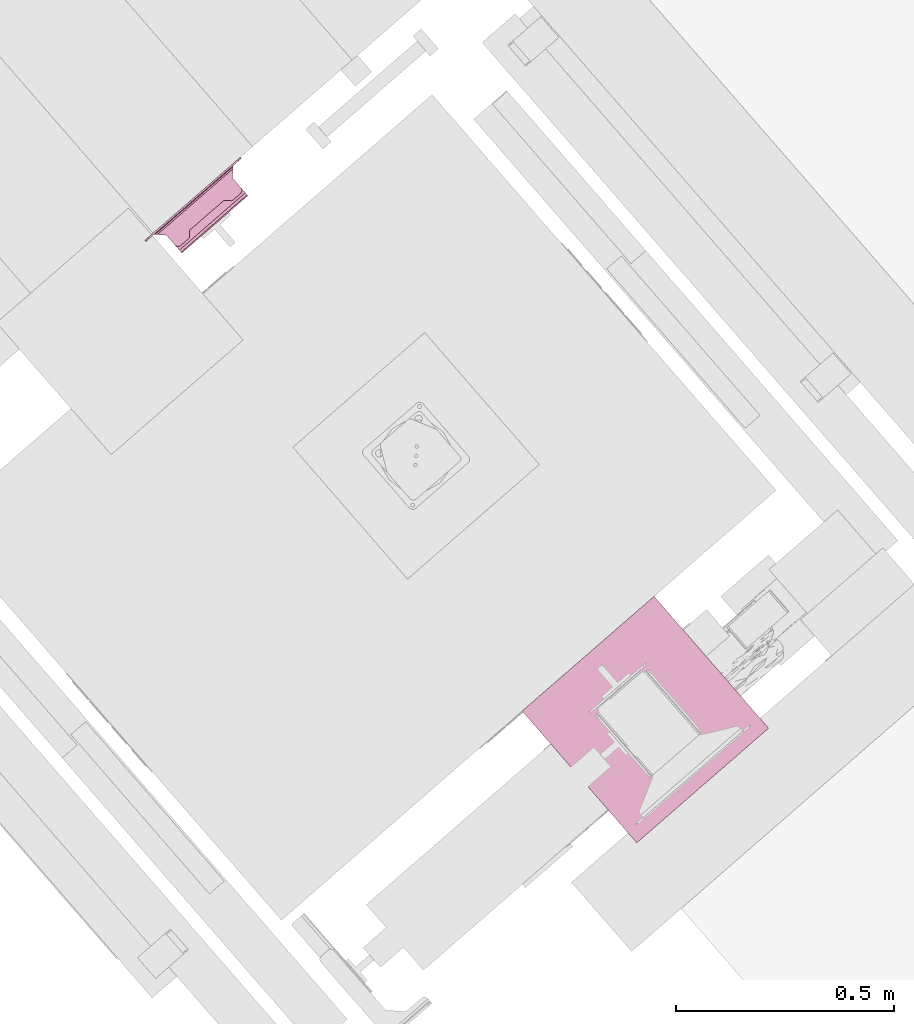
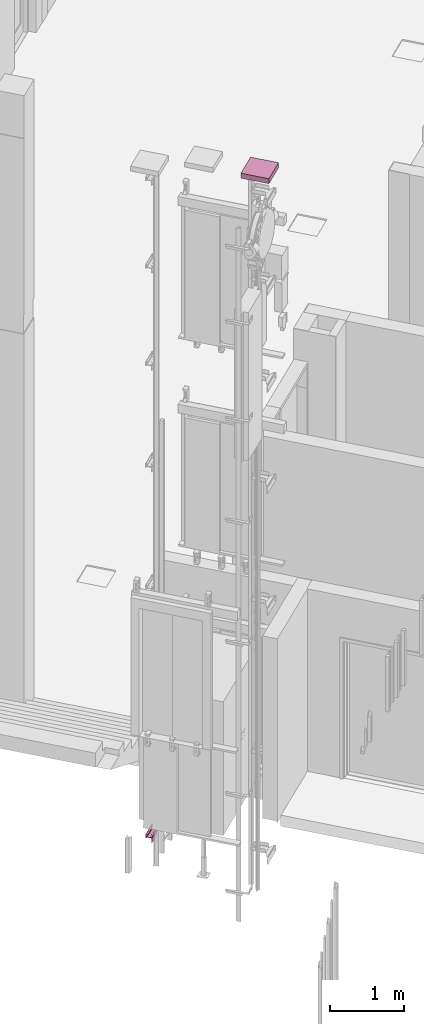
# One storey, part 117 of 124: 2 transport elements.
"""IFC2X3 building model written with IfcOpenShell, lengths in millimetres."""

from ifc_helpers import new_model, entity, si_unit, converted_unit, derived_unit, money_unit, direction, frame, origin_with_axes, place, context, subcontext, project, spatial, faceted_brep, source, transform, mapped, material, material_list, type_object, element, save


model = new_model("IFC2X3")

# Units and contexts
model_context = context("Model", 3, precision=1e-05, world=origin_with_axes(), true_north=direction((0.0, 1.0)))
body_context = subcontext(model_context, "Body", "Model", "MODEL_VIEW")
ifc_project = project(units=[si_unit("LENGTHUNIT", "METRE", prefix="MILLI"), si_unit("AREAUNIT", "SQUARE_METRE"), si_unit("VOLUMEUNIT", "CUBIC_METRE"), converted_unit("PLANEANGLEUNIT", "DEGREE", entity("IfcPlaneAngleMeasure", 0.0174532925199), si_unit("PLANEANGLEUNIT", "RADIAN"), dimensions=[0, 0, 0, 0, 0, 0, 0]), si_unit("SOLIDANGLEUNIT", "STERADIAN"), money_unit("EUR"), converted_unit("TIMEUNIT", "Year", entity("IfcTimeMeasure", 31556926.0), si_unit("TIMEUNIT", "SECOND"), dimensions=[0, 0, 1, 0, 0, 0, 0]), si_unit("MASSUNIT", "GRAM", prefix="KILO"), si_unit("THERMODYNAMICTEMPERATUREUNIT", "DEGREE_CELSIUS"), si_unit("LUMINOUSINTENSITYUNIT", "LUMEN"), si_unit("ENERGYUNIT", "JOULE", prefix="MEGA"), derived_unit("THERMALCONDUCTANCEUNIT", [(si_unit("POWERUNIT", "WATT"), 1), (si_unit("LENGTHUNIT", "METRE"), -1), (si_unit("THERMODYNAMICTEMPERATUREUNIT", "KELVIN"), -1)]), derived_unit("SPECIFICHEATCAPACITYUNIT", [(si_unit("ENERGYUNIT", "JOULE"), 1), (si_unit("MASSUNIT", "GRAM", prefix="KILO"), -1), (si_unit("THERMODYNAMICTEMPERATUREUNIT", "KELVIN"), -1)]), derived_unit("MASSDENSITYUNIT", [(si_unit("MASSUNIT", "GRAM", prefix="KILO"), 1), (si_unit("VOLUMEUNIT", "CUBIC_METRE"), -1)])], contexts=[model_context])

# Site, building, storey
site_placement = place(None, origin_with_axes())
site = spatial("IfcSite", under=ifc_project, at=site_placement, Name="Site", CompositionType="ELEMENT")
building_placement = place(site_placement, origin_with_axes())
building = spatial("IfcBuilding", under=site, at=building_placement, Name="Building", CompositionType="ELEMENT")
storey_placement = place(building_placement, frame((0.0, 0.0, -1615.0), z_axis=(0.0, 0.0, 1.0), x_axis=(1.0, 0.0, 0.0)))
storey = spatial("IfcBuildingStorey", under=building, at=storey_placement, Name="0  korrus", CompositionType="ELEMENT", Elevation=-1615.0)

# Transport elements
ifc_material_1 = material(Name="Generic")
ifc_material_list_1 = material_list([ifc_material_1, ifc_material_1])
transport_element_type_1 = type_object("IfcTransportElementType", Name="KONE_Car_Bracket_Top Most_KM927058G01_L50-80:KONE_Car_Bracket_Top Most_KM927058G01_L50-80", PredefinedType="NOTDEFINED")
shared_shape_1 = source(origin_with_axes(), body_context, "Body", "Brep", [
    faceted_brep([(146.595272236, -5.59527223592, 7.52527223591), (146.595272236, -1.59527223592, 7.52527223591), (152.525272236, -1.59527223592, 1.59527223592), (152.525272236, -5.59527223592, 1.59527223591), (140.665272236, -5.59527223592, 1.59527223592), (140.665272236, -1.59527223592, 1.59527223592), (238.595272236, -1.59527223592, 1.59527223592), (54.5952722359, -1.59527223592, 1.59527223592), (48.9384179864, -1.59527223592, 3.93841798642), (46.5952722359, -1.59527223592, 9.59527223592), (46.5952722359, -1.59527223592, 72.5952722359), (94.2197036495, -1.59527223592, 72.5952722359), (141.844135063, -1.59527223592, 72.5952722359), (194.21970289, -1.59527223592, 72.5952722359), (246.595272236, -1.59527223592, 72.5952722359), (246.595272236, -1.59527223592, 9.59527223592), (244.252126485, -1.59527223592, 3.93841798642), (238.595272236, -5.59527223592, 1.59527223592), (54.5952722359, -5.59527223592, 1.59527223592), (244.252126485, -5.59527223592, 3.93841798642), (246.595272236, -5.59527223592, 9.59527223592), (246.595272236, -5.59527223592, 72.5952722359), (196.595272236, -5.59527223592, 72.5952722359), (171.595272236, -5.59527223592, 72.5952722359), (146.595272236, -5.59527223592, 72.5952722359), (96.5952722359, -5.59527223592, 72.5952722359), (46.5952722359, -5.59527223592, 72.5952722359), (46.5952722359, -5.59527223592, 9.59527223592), (48.9384179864, -5.59527223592, 3.93841798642), (46.5952722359, -7.05973832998, 76.1308061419), (46.5952722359, -10.5952722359, 77.5952722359), (46.5952722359, -43.5952722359, 77.5952722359), (46.5952722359, -43.5952722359, 81.5952722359), (46.5952722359, -10.5952722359, 81.5952722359), (46.5952722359, -4.23131120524, 78.9592332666), (122.783062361, -4.33272177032, 79.0590529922), (196.258388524, -4.23131116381, 78.9592332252), (246.595272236, -4.23131120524, 78.9592332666), (246.595272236, -10.5952722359, 81.5952722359), (246.595272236, -43.5952722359, 81.5952722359), (246.595272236, -43.5952722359, 77.5952722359), (246.595272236, -10.5952722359, 77.5952722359), (246.595272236, -7.05973832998, 76.1308061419), (196.595274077, -7.16817136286, 76.2360111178), (168.268825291, -7.34623169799, 76.3957637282), (108.562980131, -7.16462427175, 76.2326689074), (77.6407986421, -6.76068619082, 75.804002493), (85.6337155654, -10.5952722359, 77.5952722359), (124.672159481, -10.5952722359, 77.5952722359), (155.152937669, -10.5952722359, 77.5952722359), (185.633715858, -10.5952722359, 77.5952722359), (207.556828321, -10.5952722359, 77.5952722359), (244.252126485, -49.2521264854, 77.5952722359), (238.595272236, -51.5952722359, 77.5952722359), (152.735272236, -51.5952722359, 77.5952722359), (146.735272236, -45.5952722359, 77.5952722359), (140.735272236, -51.5952722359, 77.5952722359), (54.5952722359, -51.5952722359, 77.5952722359), (48.9384179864, -49.2521264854, 77.5952722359), (48.9384179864, -49.2521264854, 81.5952722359), (194.219703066, -10.5952722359, 81.5952722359), (146.595272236, -10.5952722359, 81.5952722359), (98.9708407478, -10.5952722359, 81.5952722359), (54.5952722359, -51.5952722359, 81.5952722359), (140.735272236, -51.5952722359, 81.5952722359), (146.735272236, -45.5952722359, 81.5952722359), (152.735272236, -51.5952722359, 81.5952722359), (238.595272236, -51.5952722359, 81.5952722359), (244.252126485, -49.2521264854, 81.5952722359), (139.912552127, -7.23042311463, 76.2936219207)], [[[0, 1, 2, 3]], [[4, 5, 1, 0]], [[6, 2, 1, 5, 7, 8, 9, 10, 11, 12, 13, 14, 15, 16]], [[3, 2, 6, 17]], [[18, 4, 0, 3, 17, 19, 20, 21, 22, 23, 24, 25, 26, 27, 28]], [[18, 7, 5, 4]], [[7, 18, 28, 8]], [[28, 27, 9, 8]], [[26, 29, 30, 31, 32, 33, 34, 10, 9, 27]], [[10, 34, 11]], [[35, 12, 11]], [[14, 13, 12, 36]], [[15, 14, 37, 38, 39, 40, 41, 42, 21, 20]], [[20, 19, 16, 15]], [[16, 19, 17, 6]], [[22, 21, 42]], [[23, 22, 43]], [[23, 44, 24]], [[25, 24, 45]], [[25, 46, 26]], [[46, 29, 26]], [[30, 29, 46]], [[31, 30, 47, 48, 49, 50, 51, 41, 40, 52, 53, 54, 55, 56, 57, 58]], [[31, 58, 59, 32]], [[39, 38, 60, 61, 62, 33, 32, 59, 63, 64, 65, 66, 67, 68]], [[34, 33, 62]], [[35, 11, 34]], [[12, 35, 36]], [[36, 37, 14]], [[38, 37, 36]], [[68, 52, 40, 39]], [[42, 41, 51]], [[22, 42, 43]], [[43, 44, 23]], [[69, 24, 44]], [[24, 69, 45]], [[25, 45, 46]], [[46, 47, 30]], [[45, 48, 47]], [[49, 48, 69]], [[49, 44, 50]], [[43, 51, 50]], [[53, 52, 68, 67]], [[66, 54, 53, 67]], [[65, 55, 54, 66]], [[55, 65, 64, 56]], [[63, 57, 56, 64]], [[59, 58, 57, 63]], [[60, 38, 36, 61]], [[35, 62, 61]], [[62, 35, 34]], [[61, 36, 35]], [[51, 43, 42]], [[50, 44, 43]], [[49, 69, 44]], [[48, 45, 69]], [[47, 46, 45]]]),
    faceted_brep([(193.031915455, -77.1650327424, 84.4439921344), (166.844136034, -79.5952722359, 90.5952722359), (115.281700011, -77.3075838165, 84.5998678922), (219.21970396, -79.5952722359, 90.5952722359), (120.407488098, -79.5952722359, 90.5952722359), (73.9708401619, -79.5952722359, 90.5952722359), (146.595272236, -70.5952722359, 81.5952722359), (266.596625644, -78.0785870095, 85.5952722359), (239.595272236, -79.5952722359, 113.598825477), (26.5913722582, -76.9592332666, 84.2313112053), (83.9681334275, -70.5952722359, 81.5952722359), (209.222411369, -70.5952722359, 81.5952722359), (266.596625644, -76.9592332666, 84.2313112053), (268.983493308, -79.2077583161, 87.9827861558), (271.595272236, -79.5952722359, 90.5952722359), (21.5952722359, -79.5952722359, 90.5952722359), (26.5913722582, -78.0785870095, 85.5952722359), (26.5913722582, -75.5952722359, 83.1119574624), (261.597979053, -70.5952722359, 81.5952722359), (31.5925654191, -70.5952722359, 81.5952722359), (46.5952722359, -55.5885033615, 81.5952722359), (46.5952722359, -24.5952722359, 81.5952722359), (48.9384179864, -18.9384179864, 81.5952722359), (54.5952722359, -16.5952722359, 81.5952722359), (81.588825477, -16.5952722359, 81.5952722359), (94.588825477, -29.5952722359, 81.5952722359), (198.601718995, -29.5952722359, 81.5952722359), (211.601718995, -16.5952722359, 81.5952722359), (238.595272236, -16.5952722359, 81.5952722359), (244.252126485, -18.9384179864, 81.5952722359), (246.595272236, -24.5952722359, 81.5952722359), (246.595272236, -55.5885033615, 81.5952722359), (266.596625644, -75.5952722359, 83.1119574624), (266.596625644, -75.5952722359, 85.5952722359), (271.595272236, -75.5952722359, 90.5952722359), (271.595272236, -79.5952722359, 113.598825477), (53.5952722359, -79.5952722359, 113.598825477), (24.2057778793, -79.2077583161, 87.9827861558), (26.5888256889, -75.5952722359, 85.5952722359), (264.209757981, -73.2077583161, 81.9827861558), (28.9795132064, -73.2077583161, 81.9827861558), (31.5925654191, -70.5952722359, 85.5952722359), (46.5952722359, -55.5885033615, 85.5952722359), (46.5952722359, -24.5952722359, 85.5952722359), (48.9384179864, -18.9384179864, 85.5952722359), (54.5952722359, -16.5952722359, 85.5952722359), (81.588825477, -16.5952722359, 85.5952722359), (94.588825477, -29.5952722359, 85.5952722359), (198.601718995, -29.5952722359, 85.5952722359), (211.601718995, -16.5952722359, 85.5952722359), (238.595272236, -16.5952722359, 85.5952722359), (244.252126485, -18.9384179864, 85.5952722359), (246.595272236, -24.5952722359, 85.5952722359), (246.595272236, -55.5885033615, 85.5952722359), (261.597979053, -70.5952722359, 85.5952722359), (265.132555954, -74.1308061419, 87.05973833), (266.596625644, -75.5952722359, 90.5952722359), (283.595272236, -75.5952722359, 90.5952722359), (283.595272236, -79.5952722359, 90.5952722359), (271.595272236, -75.5952722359, 113.598825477), (239.595272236, -75.5952722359, 113.598825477), (21.5952722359, -79.5952722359, 113.598825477), (233.533094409, -79.5952722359, 117.098825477), (21.5952722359, -75.5952722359, 90.5952722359), (68.5183858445, -70.5952722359, 85.5952722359), (105.44420598, -70.5952722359, 85.5952722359), (144.482649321, -70.5952722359, 85.5952722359), (183.521092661, -70.5952722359, 85.5952722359), (222.559536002, -70.5952722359, 85.5952722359), (227.558182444, -75.5952722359, 90.5952722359), (289.252126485, -75.5952722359, 92.9384179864), (289.252126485, -79.5952722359, 92.9384179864), (291.595272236, -79.5952722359, 98.5952722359), (277.657450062, -79.5952722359, 117.098825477), (277.657450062, -75.5952722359, 117.098825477), (233.533094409, -75.5952722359, 117.098825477), (9.59527223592, -79.5952722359, 90.595272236), (53.5952722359, -75.5952722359, 113.598825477), (21.5952722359, -75.5952722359, 113.598825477), (59.6574500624, -79.5952722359, 117.098825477), (9.59527223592, -75.5952722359, 90.595272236), (28.0579885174, -74.1308061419, 87.05973833), (76.1134774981, -74.1768855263, 87.1064262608), (130.371296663, -74.1224900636, 87.0514417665), (161.595438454, -74.0699729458, 86.9999342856), (217.077061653, -74.2010396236, 87.1313955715), (59.6574500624, -75.5952722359, 117.098825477), (291.595272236, -75.5952722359, 98.5952722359), (277.657450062, -79.5952722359, 124.098825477), (277.657450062, -75.5952722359, 124.098825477), (233.533094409, -79.5952722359, 124.098825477), (233.533094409, -75.5952722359, 124.098825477), (1.59527223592, -79.5952722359, 98.595272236), (26.5939188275, -75.5952722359, 90.5952722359), (15.5330944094, -79.5952722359, 117.098825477), (15.5330944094, -75.5952722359, 117.098825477), (3.93841798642, -75.5952722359, 92.9384179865), (3.93841798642, -79.5952722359, 92.9384179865), (103.281001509, -74.5050304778, 87.478576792), (189.264421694, -74.4223954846, 87.3776445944), (206.595949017, -75.5952722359, 90.5952722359), (291.595272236, -75.5952722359, 142.595272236), (291.595272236, -79.5952722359, 142.595272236), (271.595272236, -79.5952722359, 127.598825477), (271.595272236, -75.5952722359, 127.598825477), (239.595272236, -79.5952722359, 127.598825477), (239.595272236, -75.5952722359, 127.598825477), (59.6574500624, -79.5952722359, 124.098825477), (59.6574500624, -75.5952722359, 124.098825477), (1.59527223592, -75.5952722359, 98.595272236), (15.5330944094, -79.5952722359, 124.098825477), (15.5330944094, -75.5952722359, 124.098825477), (65.632362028, -75.5952722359, 90.5952722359), (86.5945954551, -75.5952722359, 90.5952722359), (146.595272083, -75.5952722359, 90.5952722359), (116.594933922, -75.5952722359, 90.5952722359), (176.59561055, -75.5952722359, 90.5952722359), (289.252126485, -75.5952722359, 148.252126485), (289.252126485, -79.5952722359, 148.252126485), (53.5952722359, -79.5952722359, 127.598825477), (1.59527223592, -79.5952722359, 142.595272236), (53.5952722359, -75.5952722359, 127.598825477), (1.59527223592, -75.5952722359, 142.595272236), (21.5952722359, -79.5952722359, 127.598825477), (21.5952722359, -75.5952722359, 127.598825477), (283.595272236, -75.5952722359, 150.595272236), (283.595272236, -79.5952722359, 150.595272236), (9.59527223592, -79.5952722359, 150.595272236), (3.93841798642, -75.5952722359, 148.252126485), (3.93841798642, -79.5952722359, 148.252126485), (9.59527223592, -75.5952722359, 150.595272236)], [[[0, 1, 2]], [[0, 3, 1]], [[4, 5, 2, 1]], [[0, 2, 6]], [[3, 0, 7]], [[8, 1, 3]], [[8, 5, 4]], [[2, 5, 9]], [[8, 4, 1]], [[10, 6, 2]], [[0, 6, 11]], [[0, 12, 7]], [[7, 13, 3]], [[8, 3, 14]], [[8, 15, 5]], [[5, 16, 9]], [[17, 2, 9]], [[18, 11, 6, 10, 19, 20, 21, 22, 23, 24, 25, 26, 27, 28, 29, 30, 31]], [[2, 17, 10]], [[0, 11, 32]], [[32, 12, 0]], [[33, 7, 12, 32]], [[34, 14, 13, 7, 33]], [[13, 14, 3]], [[14, 35, 8]], [[36, 15, 8]], [[5, 15, 37]], [[16, 5, 37]], [[38, 9, 16]], [[9, 38, 17]], [[11, 18, 39]], [[40, 19, 10]], [[20, 19, 41, 42]], [[20, 42, 43, 21]], [[21, 43, 44, 22]], [[44, 45, 23, 22]], [[23, 45, 46, 24]], [[46, 47, 25, 24]], [[25, 47, 48, 26]], [[48, 49, 27, 26]], [[27, 49, 50, 28]], [[28, 50, 51, 29]], [[51, 52, 30, 29]], [[30, 52, 53, 31]], [[33, 32, 39, 18, 31, 53, 54, 55, 56]], [[40, 10, 17]], [[32, 11, 39]], [[57, 58, 14, 34]], [[34, 33, 56]], [[35, 14, 58]], [[8, 35, 59, 60]], [[61, 15, 36]], [[8, 62, 36]], [[15, 63, 37]], [[16, 37, 38]], [[17, 38, 40]], [[19, 40, 41]], [[53, 52, 51, 50, 49, 48, 47, 46, 45, 44, 43, 42, 41, 64, 65, 66, 67, 68, 54]], [[68, 55, 54]], [[69, 56, 55]], [[58, 57, 70, 71]], [[57, 34, 59]], [[56, 59, 34]], [[58, 72, 35]], [[35, 73, 74, 59]], [[60, 59, 56]], [[62, 8, 60, 75]], [[15, 61, 76]], [[61, 36, 77, 78]], [[36, 62, 79]], [[15, 76, 80, 63]], [[37, 63, 38]], [[81, 40, 38]], [[41, 40, 81]], [[41, 81, 64]], [[64, 82, 65]], [[83, 66, 65]], [[84, 67, 66]], [[85, 68, 67]], [[68, 85, 55]], [[86, 56, 69]], [[85, 69, 55]], [[57, 87, 70]], [[70, 87, 72, 71]], [[58, 71, 72]], [[87, 57, 59]], [[72, 73, 35]], [[73, 88, 89, 74]], [[59, 74, 87]], [[56, 75, 60]], [[90, 62, 75, 91]], [[92, 76, 61]], [[36, 79, 86, 77]], [[78, 77, 93]], [[94, 61, 78, 95]], [[90, 79, 62]], [[96, 80, 76, 97]], [[78, 63, 80]], [[63, 93, 38]], [[38, 93, 81]], [[81, 82, 64]], [[82, 98, 65]], [[66, 83, 84]], [[65, 98, 83]], [[84, 99, 67]], [[85, 67, 99]], [[56, 86, 75]], [[86, 69, 100]], [[100, 69, 85]], [[101, 102, 72, 87]], [[73, 72, 102]], [[102, 88, 73]], [[88, 103, 104, 89]], [[89, 101, 74]], [[87, 74, 101]], [[91, 75, 86]], [[105, 90, 91, 106]], [[97, 76, 92]], [[92, 61, 94]], [[79, 107, 108, 86]], [[77, 86, 93]], [[93, 63, 78]], [[109, 95, 78]], [[110, 94, 95, 111]], [[107, 79, 90]], [[80, 96, 109]], [[92, 109, 96, 97]], [[80, 109, 78]], [[81, 93, 112]], [[112, 82, 81]], [[113, 98, 82]], [[84, 83, 114]], [[115, 83, 98]], [[99, 84, 116]], [[85, 99, 100]], [[86, 100, 116]], [[102, 101, 117, 118]], [[103, 88, 102]], [[104, 103, 105, 106]], [[89, 104, 101]], [[86, 108, 91]], [[105, 119, 90]], [[106, 91, 108]], [[92, 94, 120]], [[107, 119, 121, 108]], [[86, 112, 93]], [[95, 109, 122]], [[110, 120, 94]], [[122, 111, 95]], [[123, 110, 111, 124]], [[119, 107, 90]], [[92, 120, 122, 109]], [[113, 82, 112]], [[115, 98, 113]], [[114, 83, 115]], [[114, 116, 84]], [[100, 99, 116]], [[86, 116, 114]], [[125, 117, 101]], [[117, 125, 126, 118]], [[102, 118, 126]], [[102, 126, 103]], [[105, 103, 126]], [[104, 106, 125]], [[101, 104, 125]], [[119, 105, 127]], [[121, 106, 108]], [[119, 123, 124, 121]], [[86, 113, 112]], [[110, 123, 120]], [[124, 111, 122]], [[128, 122, 120, 129]], [[86, 115, 113]], [[86, 114, 115]], [[130, 127, 126, 125]], [[126, 127, 105]], [[106, 121, 125]], [[123, 119, 127]], [[121, 124, 130]], [[120, 123, 127]], [[122, 130, 124]], [[128, 130, 122]], [[127, 129, 120]], [[127, 130, 128, 129]], [[130, 125, 121]]]),
])
transport_element_1_placement = place(storey_placement, frame((146762.129236, 79088.9929383, -970.192538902), z_axis=(0.0, 0.0, 1.0), x_axis=(-0.754709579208, -0.656059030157, 0.0)))
element("IfcTransportElement", 1, at=transport_element_1_placement, inside=storey, type_object=transport_element_type_1, material=ifc_material_list_1, Name="KONE_Car_Bracket_Top Most_KM927058G01_L50-80:KONE_Car_Bracket_Top Most_KM927058G01_L50-80", ObjectType="KONE_Car_Bracket_Top Most_KM927058G01_L50-80", CapacityByNumber=0.0, CapacityByWeight=0.0, OperationType="ELEVATOR", context=body_context, shape_type="MappedRepresentation", body=[
    mapped(shared_shape_1, transform((0.0, 0.0, 0.0))),
])
ifc_material_2 = material(Name="IFC Building Material")
ifc_material_list_2 = material_list([ifc_material_2, ifc_material_2])
transport_element_type_2 = type_object("IfcTransportElementType", Name="KONE_Hook_Embedded:KONE_Hook_Embedded", PredefinedType="NOTDEFINED")
shared_shape_2 = source(origin_with_axes(), body_context, "Body", "Brep", [
    faceted_brep([(166.5, 208.5, 81.5952722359), (164.300038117, 208.210369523, 81.5952722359), (162.25, 207.361215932, 81.5952722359), (160.48959236, 206.01040764, 81.5952722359), (159.138784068, 204.25, 81.5952722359), (158.289630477, 202.199961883, 81.5952722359), (158.0, 200.0, 81.5952722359), (158.289630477, 197.800038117, 81.5952722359), (159.138784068, 195.75, 81.5952722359), (160.48959236, 193.98959236, 81.5952722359), (162.25, 192.638784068, 81.5952722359), (164.300038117, 191.789630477, 81.5952722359), (166.5, 191.5, 81.5952722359), (168.699961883, 191.789630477, 81.5952722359), (170.75, 192.638784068, 81.5952722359), (172.51040764, 193.98959236, 81.5952722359), (173.861215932, 195.75, 81.5952722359), (174.710369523, 197.800038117, 81.5952722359), (175.0, 200.0, 81.5952722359), (174.710369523, 202.199961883, 81.5952722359), (173.861215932, 204.25, 81.5952722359), (172.51040764, 206.01040764, 81.5952722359), (170.75, 207.361215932, 81.5952722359), (168.699961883, 208.210369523, 81.5952722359), (166.5, 208.5, 43.5952722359), (164.300038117, 208.210369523, 43.5952722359), (162.25, 207.361215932, 43.5952722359), (160.48959236, 206.01040764, 43.5952722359), (159.138784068, 204.25, 43.5952722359), (158.289630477, 202.199961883, 43.5952722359), (158.0, 200.0, 43.5952722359), (158.289630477, 197.800038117, 43.5952722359), (159.138784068, 195.75, 43.5952722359), (160.48959236, 193.98959236, 43.5952722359), (162.25, 192.638784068, 43.5952722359), (164.300038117, 191.789630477, 43.5952722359), (166.5, 191.5, 43.5952722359), (168.699961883, 191.789630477, 43.5952722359), (170.75, 192.638784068, 43.5952722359), (172.51040764, 193.98959236, 43.5952722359), (173.861215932, 195.75, 43.5952722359), (174.710369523, 197.800038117, 43.5952722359), (175.0, 200.0, 43.5952722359), (174.710369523, 202.199961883, 43.5952722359), (173.861215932, 204.25, 43.5952722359), (172.51040764, 206.01040764, 43.5952722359), (170.75, 207.361215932, 43.5952722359), (168.699961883, 208.210369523, 43.5952722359), (163.610679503, 207.344898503, 33.446130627), (161.809659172, 200.0, 29.3774306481), (159.904829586, 200.0, 36.486351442), (158.952414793, 200.0, 40.040811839), (163.635953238, 192.622830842, 33.5641172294), (166.96126726, 191.863528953, 29.3998944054), (172.251319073, 192.654841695, 34.4326313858), (172.228591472, 207.377425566, 34.3237089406), (166.908799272, 208.075472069, 29.035421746), (177.38728757, 200.0, 36.2479565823), (163.626933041, 200.0, 22.5952722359), (173.267388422, 191.59542235, 25.59149626), (173.241658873, 208.482247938, 24.3662461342), (169.138053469, 193.461914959, 19.8630559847), (178.559443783, 193.152038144, 24.8726904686), (177.049050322, 208.499995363, 19.204512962), (168.696753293, 206.451483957, 20.2761285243), (171.313466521, 200.0, 14.9087387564), (173.726458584, 193.859375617, 14.2648564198), (179.774575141, 200.0, 28.9006409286), (174.041753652, 205.984610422, 13.774604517), (186.024575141, 200.0, 24.3597501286), (181.261740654, 191.502762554, 16.0878882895), (179.228250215, 206.172954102, 10.1822071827), (181.944750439, 208.495441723, 15.7082314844), (179.0, 200.0, 7.22220527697), (181.938024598, 194.347747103, 8.07543109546), (189.167875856, 193.421919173, 17.6487989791), (188.508909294, 207.995822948, 15.2174447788), (186.514291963, 191.570649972, 11.7384689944), (186.221675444, 206.88983966, 7.66880063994), (189.5, 200.0, 4.40873875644), (192.274575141, 200.0, 19.8188593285), (192.619579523, 191.600336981, 9.58467364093), (199.112736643, 192.655929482, 14.3883053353), (193.734941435, 206.225442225, 16.6001271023), (194.491029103, 208.478669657, 9.94138885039), (200.0, 200.0, 19.8188593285), (199.149382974, 192.088260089, 6.99800772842), (200.0, 200.0, 1.59527223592), (206.265057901, 193.77455793, 16.6001271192), (200.8872622, 207.344070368, 14.3883055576), (200.850616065, 207.911740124, 6.99800824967), (205.508970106, 191.521330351, 9.94138860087), (207.725424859, 200.0, 19.8188593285), (210.5, 200.0, 4.40873875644), (211.491090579, 192.004177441, 15.2174458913), (210.507529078, 206.567275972, 17.5298650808), (207.380419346, 208.399663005, 9.58467330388), (213.778324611, 193.110160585, 7.668800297), (213.975424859, 200.0, 24.3597501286), (213.515302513, 208.18197238, 10.4408604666), (218.055250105, 191.504558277, 15.7082318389), (218.172480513, 208.489419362, 15.9586287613), (221.0, 200.0, 7.22220527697), (218.370700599, 205.722806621, 8.30571902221), (220.771750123, 193.827045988, 10.1822072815), (220.225424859, 200.0, 28.9006409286), (222.950950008, 191.500004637, 19.2045132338), (222.494752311, 208.367468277, 20.8291456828), (223.93391669, 206.820336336, 13.3458698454), (225.958246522, 194.01538959, 13.7746046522), (222.61271243, 200.0, 36.2479565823), (224.84326674, 200.0, 11.0654720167), (228.686533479, 200.0, 14.9087387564), (226.758341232, 191.517752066, 24.3662463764), (226.758341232, 208.482247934, 24.3662463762), (231.303246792, 206.451483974, 20.2761286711), (236.373066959, 200.0, 22.5952722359), (231.303246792, 193.548516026, 20.2761286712), (227.771408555, 192.622574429, 34.3237089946), (227.771408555, 207.377425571, 34.3237089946), (233.091200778, 208.075472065, 29.0354218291), (233.091200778, 191.924527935, 29.0354218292), (225.0, 200.0, 43.5952722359), (236.389320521, 207.344898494, 33.4461306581), (225.289630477, 197.800038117, 43.5952722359), (227.48959236, 193.98959236, 43.5952722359), (225.289630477, 202.199961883, 43.5952722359), (227.48959236, 206.01040764, 43.5952722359), (236.389320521, 192.655101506, 33.4461306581), (229.25, 207.361215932, 43.5952722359), (238.190340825, 200.0, 29.3774306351), (226.138784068, 195.75, 43.5952722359), (225.289630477, 197.800038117, 81.5952722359), (225.0, 200.0, 81.5952722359), (229.25, 192.638784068, 43.5952722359), (226.138784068, 204.25, 43.5952722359), (225.289630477, 202.199961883, 81.5952722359), (231.300038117, 208.210369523, 43.5952722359), (235.699961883, 208.210369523, 43.5952722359), (226.138784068, 195.75, 81.5952722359), (231.300038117, 208.210369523, 81.5952722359), (229.25, 207.361215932, 81.5952722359), (227.48959236, 206.01040764, 81.5952722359), (226.138784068, 204.25, 81.5952722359), (227.48959236, 193.98959236, 81.5952722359), (229.25, 192.638784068, 81.5952722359), (231.300038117, 191.789630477, 81.5952722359), (233.5, 191.5, 81.5952722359), (235.699961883, 191.789630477, 81.5952722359), (237.75, 192.638784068, 81.5952722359), (239.51040764, 193.98959236, 81.5952722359), (240.861215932, 195.75, 81.5952722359), (241.710369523, 197.800038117, 81.5952722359), (242.0, 200.0, 81.5952722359), (241.710369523, 202.199961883, 81.5952722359), (240.861215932, 204.25, 81.5952722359), (239.51040764, 206.01040764, 81.5952722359), (237.75, 207.361215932, 81.5952722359), (235.699961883, 208.210369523, 81.5952722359), (233.5, 208.5, 81.5952722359), (235.699961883, 191.789630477, 43.5952722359), (231.300038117, 191.789630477, 43.5952722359), (233.5, 208.5, 43.5952722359), (237.75, 207.361215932, 43.5952722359), (233.5, 191.5, 43.5952722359), (237.75, 192.638784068, 43.5952722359), (239.51040764, 193.98959236, 43.5952722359), (240.861215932, 195.75, 43.5952722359), (241.710369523, 197.800038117, 43.5952722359), (242.0, 200.0, 43.5952722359), (241.710369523, 202.199961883, 43.5952722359), (240.861215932, 204.25, 43.5952722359), (239.51040764, 206.01040764, 43.5952722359), (240.095170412, 200.0, 36.4863514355), (241.047585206, 200.0, 40.0408118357)], [[[0, 1, 2, 3, 4, 5, 6, 7, 8, 9, 10, 11, 12, 13, 14, 15, 16, 17, 18, 19, 20, 21, 22, 23]], [[1, 0, 24, 25]], [[26, 2, 1, 25]], [[27, 3, 2, 26]], [[27, 28, 4, 3]], [[4, 28, 29, 5]], [[5, 29, 30, 6]], [[31, 7, 6, 30]], [[32, 8, 7, 31]], [[32, 33, 9, 8]], [[9, 33, 34, 10]], [[10, 34, 35, 11]], [[11, 35, 36, 12]], [[13, 12, 36, 37]], [[38, 14, 13, 37]], [[39, 15, 14, 38]], [[39, 40, 16, 15]], [[16, 40, 41, 17]], [[17, 41, 42, 18]], [[43, 19, 18, 42]], [[44, 20, 19, 43]], [[44, 45, 21, 20]], [[21, 45, 46, 22]], [[22, 46, 47, 23]], [[23, 47, 24, 0]], [[25, 24, 48]], [[49, 26, 25]], [[50, 27, 26]], [[50, 28, 27]], [[28, 51, 29]], [[51, 30, 29]], [[31, 30, 51]], [[51, 32, 31]], [[32, 50, 33]], [[33, 50, 34]], [[34, 49, 35]], [[52, 36, 35]], [[37, 36, 52]], [[52, 38, 37]], [[38, 53, 39]], [[40, 39, 54]], [[40, 54, 41]], [[42, 41, 54]], [[42, 55, 43]], [[55, 44, 43]], [[44, 55, 45]], [[56, 46, 45]], [[48, 47, 46]], [[48, 24, 47]], [[49, 25, 48]], [[26, 49, 50]], [[50, 51, 28]], [[51, 50, 32]], [[34, 50, 49]], [[52, 35, 49]], [[53, 38, 52]], [[39, 53, 54]], [[42, 54, 57]], [[42, 57, 55]], [[55, 56, 45]], [[48, 46, 56]], [[49, 48, 58]], [[52, 49, 58]], [[58, 53, 52]], [[53, 59, 54]], [[59, 57, 54]], [[55, 57, 60]], [[60, 56, 55]], [[56, 58, 48]], [[58, 61, 53]], [[59, 53, 61]], [[62, 57, 59]], [[63, 60, 57]], [[64, 56, 60]], [[56, 64, 58]], [[61, 58, 65]], [[61, 66, 59]], [[57, 62, 67]], [[66, 62, 59]], [[63, 68, 60]], [[63, 57, 67]], [[68, 64, 60]], [[58, 64, 65]], [[66, 61, 65]], [[67, 62, 69]], [[70, 62, 66]], [[63, 71, 68]], [[63, 67, 72]], [[65, 64, 68]], [[73, 66, 65]], [[62, 70, 69]], [[69, 72, 67]], [[66, 74, 70]], [[71, 63, 72]], [[71, 73, 68]], [[65, 68, 73]], [[66, 73, 74]], [[69, 70, 75]], [[72, 69, 76]], [[74, 77, 70]], [[71, 72, 78]], [[71, 78, 73]], [[79, 74, 73]], [[77, 75, 70]], [[80, 69, 75]], [[69, 80, 76]], [[76, 78, 72]], [[74, 79, 77]], [[79, 73, 78]], [[77, 81, 75]], [[75, 82, 80]], [[76, 80, 83]], [[78, 76, 84]], [[79, 81, 77]], [[84, 79, 78]], [[75, 81, 82]], [[80, 82, 85]], [[83, 80, 85]], [[83, 84, 76]], [[79, 86, 81]], [[79, 84, 87]], [[86, 82, 81]], [[85, 82, 88]], [[83, 85, 89]], [[89, 84, 83]], [[87, 86, 79]], [[87, 84, 90]], [[91, 82, 86]], [[82, 91, 88]], [[88, 92, 85]], [[92, 89, 85]], [[84, 89, 90]], [[87, 91, 86]], [[87, 90, 93]], [[88, 91, 94]], [[94, 92, 88]], [[92, 95, 89]], [[90, 89, 96]], [[93, 91, 87]], [[93, 90, 96]], [[97, 94, 91]], [[98, 92, 94]], [[92, 98, 95]], [[96, 89, 95]], [[91, 93, 97]], [[99, 93, 96]], [[94, 97, 100]], [[100, 98, 94]], [[101, 95, 98]], [[95, 99, 96]], [[93, 102, 97]], [[93, 99, 103]], [[104, 100, 97]], [[98, 100, 105]], [[95, 101, 99]], [[98, 105, 101]], [[102, 93, 103]], [[104, 97, 102]], [[103, 99, 101]], [[104, 106, 100]], [[106, 105, 100]], [[101, 105, 107]], [[103, 108, 102]], [[102, 109, 104]], [[101, 108, 103]], [[106, 104, 109]], [[106, 110, 105]], [[110, 107, 105]], [[107, 108, 101]], [[102, 108, 111]], [[109, 102, 111, 112]], [[106, 109, 113]], [[106, 113, 110]], [[107, 110, 114]], [[108, 107, 114]], [[111, 108, 115]], [[116, 112, 111, 115]], [[112, 117, 109]], [[109, 117, 113]], [[118, 110, 113]], [[114, 110, 119]], [[108, 114, 115]], [[116, 117, 112]], [[116, 115, 120]], [[117, 121, 113]], [[122, 110, 118]], [[113, 121, 118]], [[122, 119, 110]], [[120, 114, 119]], [[120, 115, 114]], [[121, 117, 116]], [[116, 120, 123]], [[122, 118, 124]], [[118, 121, 125]], [[126, 119, 122]], [[119, 127, 120]], [[121, 116, 128]], [[129, 123, 120]], [[130, 116, 123]], [[131, 124, 118]], [[124, 132, 133, 122]], [[125, 121, 134]], [[131, 118, 125]], [[119, 126, 135]], [[136, 126, 122, 133]], [[127, 119, 135]], [[120, 127, 129]], [[130, 128, 116]], [[128, 134, 121]], [[123, 129, 137]], [[130, 123, 138]], [[131, 139, 132, 124]], [[140, 141, 142, 143, 136, 133, 132, 139, 144, 145, 146, 147, 148, 149, 150, 151, 152, 153, 154, 155, 156, 157, 158, 159]], [[144, 125, 134, 145]], [[144, 139, 131, 125]], [[143, 135, 126, 136]], [[143, 142, 127, 135]], [[127, 142, 141, 129]], [[130, 160, 128]], [[128, 161, 134]], [[129, 141, 140, 137]], [[162, 123, 137]], [[123, 162, 138]], [[163, 130, 138]], [[145, 134, 161, 146]], [[161, 164, 147, 146]], [[160, 148, 147, 164]], [[165, 149, 148, 160]], [[166, 150, 149, 165]], [[151, 150, 166, 167]], [[151, 167, 168, 152]], [[152, 168, 169, 153]], [[170, 154, 153, 169]], [[171, 155, 154, 170]], [[156, 155, 171, 172]], [[156, 172, 163, 157]], [[157, 163, 138, 158]], [[138, 162, 159, 158]], [[137, 140, 159, 162]], [[165, 160, 130]], [[164, 128, 160]], [[128, 164, 161]], [[163, 173, 130]], [[166, 165, 173]], [[173, 167, 166]], [[167, 174, 168]], [[168, 174, 169]], [[170, 169, 174]], [[174, 171, 170]], [[173, 172, 171]], [[173, 163, 172]], [[165, 130, 173]], [[173, 174, 167]], [[174, 173, 171]]]),
    faceted_brep([(0.0, 400.0, 81.5952722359), (0.0, 0.0, 81.5952722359), (400.0, 0.0, 81.5952722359), (400.0, 400.0, 81.5952722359), (0.0, 400.0, 1.59527223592), (0.0, 0.0, 1.59527223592), (400.0, 0.0, 1.59527223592), (400.0, 400.0, 1.59527223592)], [[[0, 1, 2, 3]], [[1, 0, 4, 5]], [[2, 1, 5, 6]], [[3, 2, 6, 7]], [[0, 3, 7, 4]], [[4, 7, 6, 5]]]),
])
transport_element_2_placement = place(storey_placement, frame((147918.000172, 77840.7178556, 10328.4047278), z_axis=(0.0, 0.0, 1.0), x_axis=(-0.656059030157, 0.754709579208, 0.0)))
element("IfcTransportElement", 2, at=transport_element_2_placement, inside=storey, type_object=transport_element_type_2, material=ifc_material_list_2, Name="KONE_Hook_Embedded:KONE_Hook_Embedded", ObjectType="KONE_Hook_Embedded", CapacityByNumber=0.0, CapacityByWeight=0.0, OperationType="ELEVATOR", context=body_context, shape_type="MappedRepresentation", body=[
    mapped(shared_shape_2, transform((0.0, 0.0, 0.0))),
])

save(model, "model.ifc")
